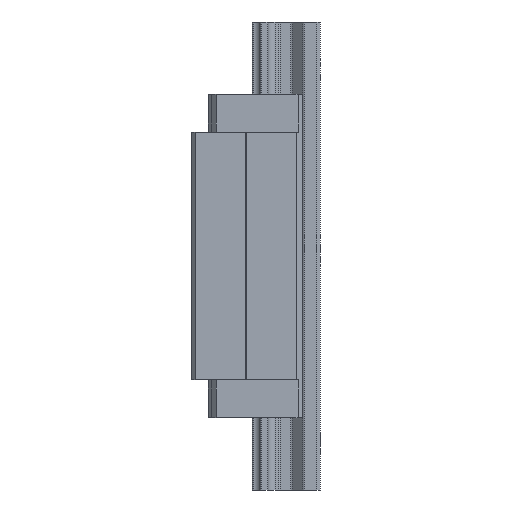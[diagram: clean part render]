
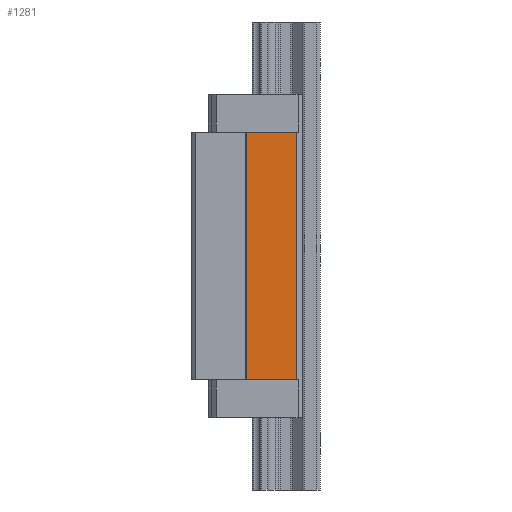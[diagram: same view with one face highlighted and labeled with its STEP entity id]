
A CAD part, left-side view. The second image highlights one B-rep face of the part: STEP entity #1281.
In plain terms, the highlighted planar face has unit normal (-1, 0, 0).
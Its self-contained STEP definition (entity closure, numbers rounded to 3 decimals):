
#90 = VERTEX_POINT ( 'NONE', #5186 ) ;
#395 = PLANE ( 'NONE',  #5404 ) ;
#451 = VECTOR ( 'NONE', #5574, 1000. ) ;
#643 = CARTESIAN_POINT ( 'NONE',  ( -34.5, 2.5, -52.9 ) ) ;
#662 = ORIENTED_EDGE ( 'NONE', *, *, #6020, .T. ) ;
#696 = ORIENTED_EDGE ( 'NONE', *, *, #5945, .T. ) ;
#864 = FACE_OUTER_BOUND ( 'NONE', #2308, .T. ) ;
#925 = CARTESIAN_POINT ( 'NONE',  ( -34.5, 2.5, -52.9 ) ) ;
#1006 = VERTEX_POINT ( 'NONE', #3906 ) ;
#1281 = ADVANCED_FACE ( 'NONE', ( #864 ), #395, .T. ) ;
#1544 = CARTESIAN_POINT ( 'NONE',  ( -34.5, -19., -52.9 ) ) ;
#1577 = VERTEX_POINT ( 'NONE', #2306 ) ;
#1737 = EDGE_CURVE ( 'NONE', #4039, #1006, #3479, .T. ) ;
#2089 = CARTESIAN_POINT ( 'NONE',  ( -34.5, -19., 52.9 ) ) ;
#2306 = CARTESIAN_POINT ( 'NONE',  ( -34.5, 2.5, -52.9 ) ) ;
#2308 = EDGE_LOOP ( 'NONE', ( #662, #696, #4187, #5448 ) ) ;
#2346 = DIRECTION ( 'NONE',  ( -1., 0., 0. ) ) ;
#2684 = CARTESIAN_POINT ( 'NONE',  ( -34.5, 2.5, -52.9 ) ) ;
#2971 = CARTESIAN_POINT ( 'NONE',  ( -34.5, 2.5, 52.9 ) ) ;
#3336 = EDGE_CURVE ( 'NONE', #4039, #90, #5962, .T. ) ;
#3389 = DIRECTION ( 'NONE',  ( 0., 1., 0. ) ) ;
#3450 = VECTOR ( 'NONE', #3389, 1000. ) ;
#3470 = VECTOR ( 'NONE', #3493, 1000. ) ;
#3479 = LINE ( 'NONE', #2971, #3450 ) ;
#3493 = DIRECTION ( 'NONE',  ( 0., 0., -1. ) ) ;
#3648 = LINE ( 'NONE', #2684, #5178 ) ;
#3906 = CARTESIAN_POINT ( 'NONE',  ( -34.5, 2.5, 52.9 ) ) ;
#3998 = LINE ( 'NONE', #643, #451 ) ;
#4039 = VERTEX_POINT ( 'NONE', #2089 ) ;
#4095 = DIRECTION ( 'NONE',  ( 0., 0., -1. ) ) ;
#4187 = ORIENTED_EDGE ( 'NONE', *, *, #3336, .F. ) ;
#5178 = VECTOR ( 'NONE', #4095, 1000. ) ;
#5186 = CARTESIAN_POINT ( 'NONE',  ( -34.5, -19., -52.9 ) ) ;
#5253 = DIRECTION ( 'NONE',  ( 0., 0., 1. ) ) ;
#5404 = AXIS2_PLACEMENT_3D ( 'NONE', #925, #2346, #5253 ) ;
#5448 = ORIENTED_EDGE ( 'NONE', *, *, #1737, .T. ) ;
#5574 = DIRECTION ( 'NONE',  ( 0., -1., 0. ) ) ;
#5945 = EDGE_CURVE ( 'NONE', #1577, #90, #3998, .T. ) ;
#5962 = LINE ( 'NONE', #1544, #3470 ) ;
#6020 = EDGE_CURVE ( 'NONE', #1006, #1577, #3648, .T. ) ;
